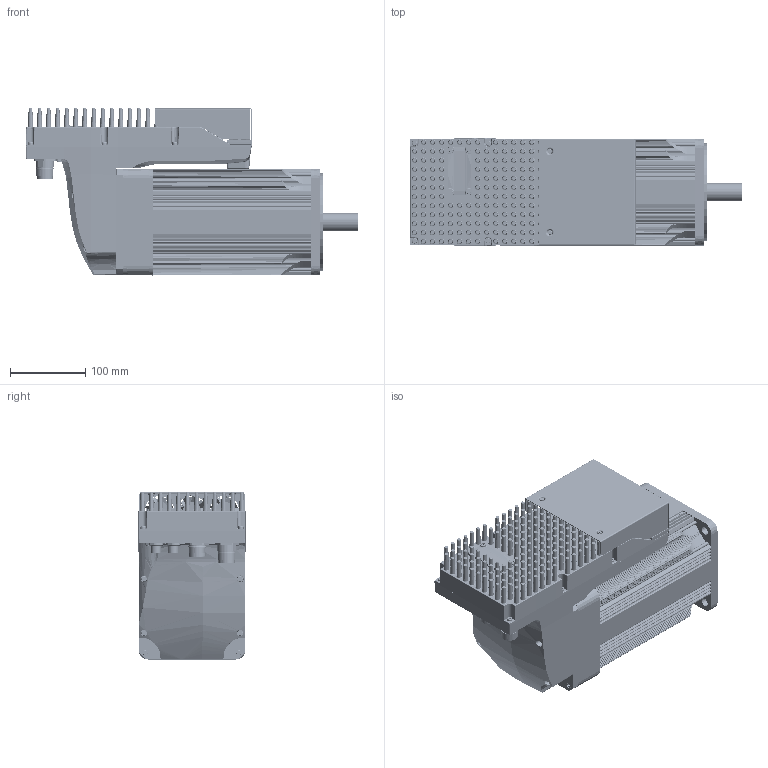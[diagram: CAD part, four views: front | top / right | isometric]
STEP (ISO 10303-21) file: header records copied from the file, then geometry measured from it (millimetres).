
FILE_DESCRIPTION( ( 'Unknown' ), '1' );
FILE_NAME( 'X:/Tecnico/ARCHIVIO PRODOTTI/11_DUET/DUET HV - CMZ/05_Disegni/DUET HV 142/Disegni DUET HV 142 - 3D step MPC/DUET.HV.142.16,5.xx.xx.0.E.3.stp', 'Unknown', ( 'Unknown' ), ( 'Unknown' ), 'PSStep 17.0.49', 'Unknown', ' ' );
FILE_SCHEMA( ( 'AUTOMOTIVE_DESIGN { 1 0 10303 214 1 1 1 1 }' ) );
Length unit declared in the file: millimetre
Products named in the file (80): J_7651000000; Connettore_M23_pot; J_7001919137; frutto 16+3; contatto_1mm; contatto_1.5.mm; J_7458000000; Connettore_M23_IO; LC091104.1.0; J_7084943101; JAC7010942001; JAC7010941001; LC091112.1.0; J_RKMHL4S55; JS26FSQ7; PC091112.1.0; J_4301236; LC101004.2.2.n; JS20MNQD6; LT709037RLF1; UKSZ8721BLI; UET1100; JTP1633-2; PC101004.1.0; DLS5977701507; DLRR; DLRV; DWFR01FR10PS; 052410000001; MD201105.2.0; MD131108.2.0; MD131115.2.0; MD131109.2.0; dado_M8_lumberg; dado_M12_conec; Dado_M23_IO; V_VTCTX40X14A; V_VTCTX3X6(8.8); ALVDD4028M24BPLB2B-7; MD081003.2.0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
Assembly tree (149 placements, depth 5):
  Assem1
    003251006740
    005123001100
    005123001100
    005123001100
    005123001100
    005123001100
    005123001100
    005123001100
    005123001100
    005123001100
    005755000300
    005751000710  x3
    005123000110
    005123000110
    005123000110
    005123000110
    005123000110
    005123000110
    005123000110
    005123000110
    005008000310  x3
    003103040122
    N49600_L_226  x8
    005008000740
    005007000090
    anello di rasamento 40_46,5_0,5
    005755000080
    005911000550  x4
    MD201109.2.0
    003107003227
    005911000209  x4
    005008000668-oa0
    005119000990
    005119000990
    N25600_16,5
    N01735
    005799000505
      005911003655  x2
      MD131106.2.0
    052410000001
      MD201105.2.0
      MD131108.2.0
      MD131115.2.0
      MD131109.2.0
      dado_M8_lumberg
      dado_M12_conec  x2
      Dado_M23_IO  x2
      V_VTCTX40X14A  x8
      V_VTCTX3X6(8.8)  x6
      ALVDD4028M24BPLB2B-7  x3
      MD081003.2.0
      LC091104.1.0
        J_7084943101
        JAC7010942001  x3
        JAC7010941001  x4
        J_7001919137
          frutto 16+3
          contatto_1mm  x16
          contatto_1.5.mm  x3
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Bounding box: 441.5 x 143.27 x 222.09 mm (x, y, z)
Volume: 2837916 mm3; surface area: 1344511.7 mm2
Topology: 141 solids, 141 shells, 12550 faces, 31387 edges, 19702 vertices
Faces by surface type: plane 5673, cylinder 3599, torus 1149, bspline 988, cone 852, sphere 271, revolution 16, extrusion 2
Full cylindrical faces by diameter (mm): 0.182 x20, 0.207 x3, 0.245 x1, 0.253 x40, 0.31 x2, 0.443 x6, 0.5 x4, 0.511 x2, 0.6 x52, 0.65 x6, 0.7 x16, 0.8 x102, 0.81 x2, 0.813 x15, 0.828 x2, 0.991 x58, 1 x56, 1.092 x20, 1.14 x2, 1.295 x8, 1.363 x1, 1.4 x6, 1.5 x3, 1.55 x2, 1.6 x8, 1.8 x4, 1.98 x2, 2 x59, 2.459 x16, 2.5 x12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
Entity records: 452423 total; most frequent: CARTESIAN_POINT 153194, ORIENTED_EDGE 44516, DIRECTION 44240, EDGE_CURVE 22258, AXIS2_PLACEMENT_3D 16704, VERTEX_POINT 14839, EDGE_LOOP 12528, FACE_OUTER_BOUND 10936
